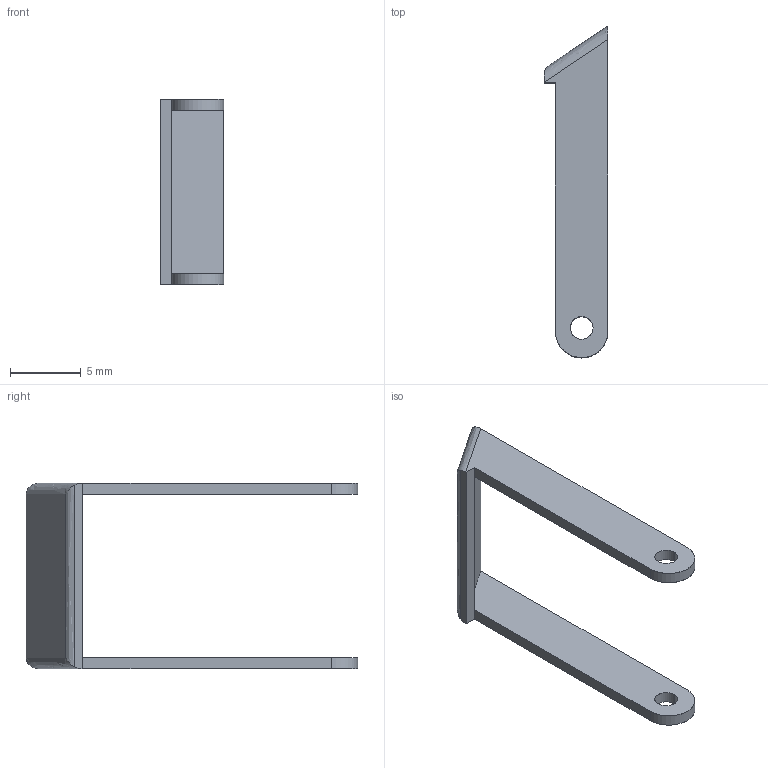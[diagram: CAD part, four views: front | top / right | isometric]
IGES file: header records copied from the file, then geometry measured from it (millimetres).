
Start section: SolidWorks IGES FILE using analytic representation for surfaces
Global section: file name: C:\Documents and Settings\lecoutey\Bureau\GP 69\69.030.00.IGS; native system: SolidWorks 2004 by SolidWorks Corporation; preprocessor: Version 5.3; author: lecoutey; date: 050329.145908; units: millimetre
Bounding box: 4.5 x 23.4 x 13.1 mm (x, y, z)
Surface area: 546.9 mm2 (no closed solid volume)
Topology: 0 solids, 0 shells, 21 faces, 260 edges, 260 vertices
Faces by surface type: bspline 12, revolution 9
